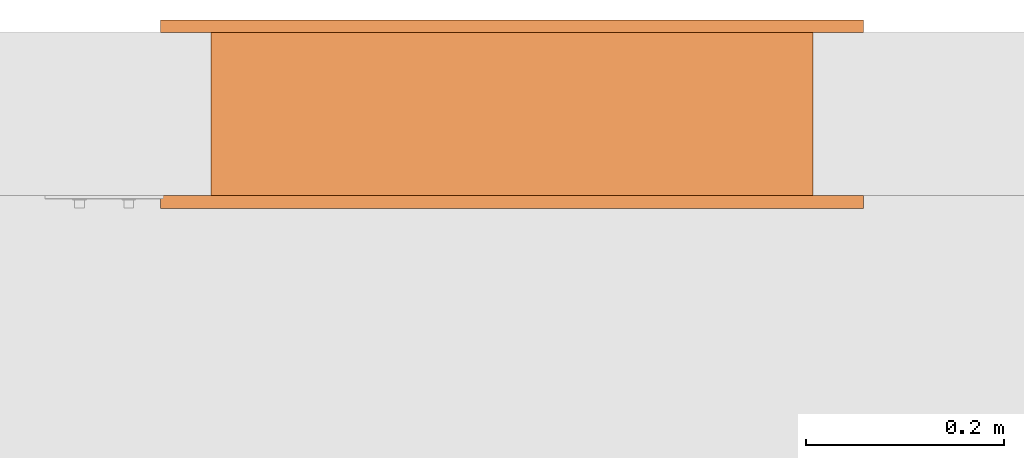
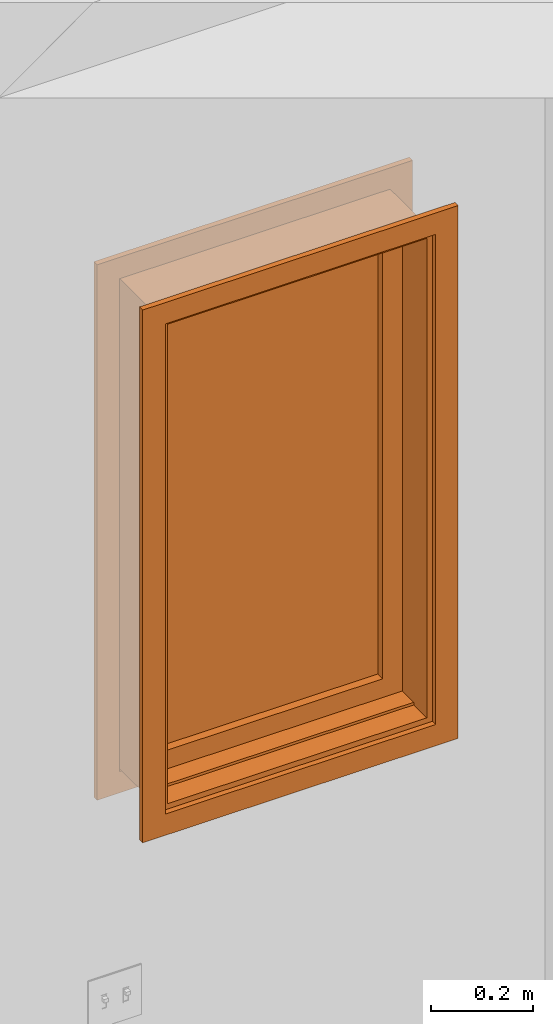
# One storey, part 63 of 103: 1 proxy.
"""IFC2X3 building model written with IfcOpenShell, lengths in inches."""

from ifc_helpers import new_model, entity, si_unit, converted_unit, derived_unit, money_unit, direction, frame, origin_with_axes, place, context, subcontext, project, spatial, faceted_brep, source, transform, mapped, type_object, element, save


model = new_model("IFC2X3")

# Units and contexts
model_context = context("Model", 3, precision=0.00039370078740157, world=origin_with_axes(), true_north=direction((0.0, 1.0)))
plan_context = context("Plan", 3, precision=0.00039370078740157, world=origin_with_axes(), true_north=direction((0.0, 1.0)))
body_context = subcontext(model_context, "Body", "Model", "MODEL_VIEW")
ifc_project = project(units=[converted_unit("LENGTHUNIT", "INCH", entity("IfcPositiveLengthMeasure", 0.0254), si_unit("LENGTHUNIT", "METRE"), dimensions=[1, 0, 0, 0, 0, 0, 0]), converted_unit("AREAUNIT", "SQUARE_FOOT", entity("IfcPositiveLengthMeasure", 0.09290304), si_unit("AREAUNIT", "SQUARE_METRE"), dimensions=[2, 0, 0, 0, 0, 0, 0]), si_unit("PLANEANGLEUNIT", "RADIAN"), si_unit("SOLIDANGLEUNIT", "STERADIAN"), money_unit("USD"), converted_unit("TIMEUNIT", "Year", entity("IfcTimeMeasure", 31557600.0), si_unit("TIMEUNIT", "SECOND"), dimensions=[0, 0, 1, 0, 0, 0, 0]), si_unit("MASSUNIT", "GRAM", prefix="KILO"), si_unit("THERMODYNAMICTEMPERATUREUNIT", "DEGREE_CELSIUS"), si_unit("LUMINOUSINTENSITYUNIT", "LUMEN"), si_unit("ENERGYUNIT", "JOULE", prefix="MEGA"), derived_unit("SPECIFICHEATCAPACITYUNIT", [(si_unit("ENERGYUNIT", "JOULE"), 1), (si_unit("MASSUNIT", "GRAM", prefix="KILO"), -1), (si_unit("THERMODYNAMICTEMPERATUREUNIT", "KELVIN"), -1)])], contexts=[model_context, plan_context])

# Site, building, storey
site_placement = place(None, origin_with_axes())
site = spatial("IfcSite", under=ifc_project, at=site_placement, Name="Site", CompositionType="ELEMENT")
building_placement = place(site_placement, origin_with_axes())
building = spatial("IfcBuilding", under=site, at=building_placement, Name="Building", CompositionType="ELEMENT")
storey_placement = place(building_placement, frame((0.0, 0.0, 127.9999999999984), z_axis=(0.0, 0.0, 1.0), x_axis=(1.0, 0.0, 0.0)))
storey = spatial("IfcBuildingStorey", under=building, at=storey_placement, Name="Second Floor", CompositionType="ELEMENT", Elevation=128.0)

# Proxy
building_element_proxy_type = type_object("IfcBuildingElementProxyType", Name="W Fixed", PredefinedType="NOTDEFINED")
shared_shape = source(origin_with_axes(), body_context, "Body", "Brep", [
    faceted_brep([(-11.99999999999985, -4.499999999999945, 0.0), (11.99999999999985, -4.499999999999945, 0.0), (11.99999999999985, -6.49999999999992, 0.0), (-11.99999999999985, -6.49999999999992, 0.0), (-11.99999999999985, -4.49999999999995, 45.99999999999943), (11.99999999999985, -4.49999999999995, 45.99999999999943), (-11.49999999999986, -4.499999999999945, 0.4999999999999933), (11.49999999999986, -4.499999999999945, 0.4999999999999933), (11.49999999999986, -4.49999999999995, 45.49999999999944), (-11.49999999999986, -4.49999999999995, 45.49999999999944), (11.99999999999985, -6.499999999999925, 45.99999999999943), (-11.99999999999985, -6.499999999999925, 45.99999999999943), (-11.49999999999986, -6.49999999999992, 0.4999999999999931), (-11.49999999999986, -6.499999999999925, 45.49999999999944), (11.49999999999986, -6.499999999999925, 45.49999999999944), (11.49999999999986, -6.49999999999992, 0.4999999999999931)], [[[0, 1, 2, 3]], [[0, 4, 5, 1], [6, 7, 8, 9]], [[1, 5, 10, 2]], [[3, 2, 10, 11], [12, 13, 14, 15]], [[4, 0, 3, 11]], [[5, 4, 11, 10]], [[7, 6, 12, 15]], [[8, 7, 15, 14]], [[9, 8, 14, 13]], [[6, 9, 13, 12]]]),
    faceted_brep([(-13.99999999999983, -6.999999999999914, -1.999999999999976), (-13.99999999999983, -6.499999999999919, -1.999999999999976), (-11.99999999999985, -6.49999999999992, 0.0), (-11.99999999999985, -6.999999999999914, 0.0), (-13.99999999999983, -6.999999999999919, 47.9999999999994), (-13.99999999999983, -6.499999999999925, 47.9999999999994), (-11.99999999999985, -6.499999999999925, 45.99999999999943), (-11.99999999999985, -6.999999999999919, 45.99999999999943)], [[[0, 1, 2, 3]], [[4, 5, 1, 0]], [[1, 5, 6, 2]], [[3, 2, 6, 7]], [[0, 3, 7, 4]], [[7, 6, 5, 4]]]),
    faceted_brep([(13.99999999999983, -6.999999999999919, 47.9999999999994), (13.99999999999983, -6.499999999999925, 47.9999999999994), (11.99999999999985, -6.499999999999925, 45.99999999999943), (11.99999999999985, -6.999999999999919, 45.99999999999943), (13.99999999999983, -6.999999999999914, -1.999999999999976), (13.99999999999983, -6.499999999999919, -1.999999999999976), (11.99999999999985, -6.49999999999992, 0.0), (11.99999999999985, -6.999999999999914, 0.0)], [[[0, 1, 2, 3]], [[4, 5, 1, 0]], [[1, 5, 6, 2]], [[3, 2, 6, 7]], [[0, 3, 7, 4]], [[7, 6, 5, 4]]]),
    faceted_brep([(13.99999999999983, -6.999999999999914, -1.999999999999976), (13.99999999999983, -6.499999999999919, -1.999999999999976), (11.99999999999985, -6.49999999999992, 0.0), (11.99999999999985, -6.999999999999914, 0.0), (-13.99999999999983, -6.999999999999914, -1.999999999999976), (-13.99999999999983, -6.499999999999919, -1.999999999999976), (-11.99999999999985, -6.49999999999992, 0.0), (-11.99999999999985, -6.999999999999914, 0.0)], [[[0, 1, 2, 3]], [[4, 5, 1, 0]], [[1, 5, 6, 2]], [[3, 2, 6, 7]], [[0, 3, 7, 4]], [[7, 6, 5, 4]]]),
    faceted_brep([(-13.99999999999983, -6.999999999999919, 47.9999999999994), (-13.99999999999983, -6.499999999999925, 47.9999999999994), (-11.99999999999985, -6.499999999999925, 45.99999999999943), (-11.99999999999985, -6.999999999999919, 45.99999999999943), (13.99999999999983, -6.999999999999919, 47.9999999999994), (13.99999999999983, -6.499999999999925, 47.9999999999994), (11.99999999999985, -6.499999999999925, 45.99999999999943), (11.99999999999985, -6.999999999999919, 45.99999999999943)], [[[0, 1, 2, 3]], [[4, 5, 1, 0]], [[1, 5, 6, 2]], [[3, 2, 6, 7]], [[0, 3, 7, 4]], [[7, 6, 5, 4]]]),
    faceted_brep([(-13.99999999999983, 0.4999999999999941, -2.249999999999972), (-11.99999999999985, 0.4999999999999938, -0.2499999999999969), (-11.99999999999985, 0.0, -0.249999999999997), (-13.99999999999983, 0.0, -2.249999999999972), (-13.99999999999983, 0.499999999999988, 47.9999999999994), (-11.99999999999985, 0.4999999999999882, 45.99999999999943), (-11.99999999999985, 0.0, 45.99999999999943), (-13.99999999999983, 0.0, 47.9999999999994)], [[[0, 1, 2, 3]], [[0, 4, 5, 1]], [[1, 5, 6, 2]], [[3, 2, 6, 7]], [[4, 0, 3, 7]], [[5, 4, 7, 6]]]),
    faceted_brep([(13.99999999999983, 0.499999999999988, 47.9999999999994), (11.99999999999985, 0.4999999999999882, 45.99999999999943), (11.99999999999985, 0.0, 45.99999999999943), (13.99999999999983, 0.0, 47.9999999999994), (13.99999999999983, 0.4999999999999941, -2.249999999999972), (11.99999999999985, 0.4999999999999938, -0.2499999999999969), (11.99999999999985, 0.0, -0.249999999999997), (13.99999999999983, 0.0, -2.249999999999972)], [[[0, 1, 2, 3]], [[0, 4, 5, 1]], [[1, 5, 6, 2]], [[3, 2, 6, 7]], [[4, 0, 3, 7]], [[5, 4, 7, 6]]]),
    faceted_brep([(13.99999999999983, 0.4999999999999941, -2.249999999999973), (11.99999999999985, 0.4999999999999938, -0.2499999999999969), (11.99999999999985, 0.0, -0.249999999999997), (13.99999999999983, 0.0, -2.249999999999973), (-13.99999999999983, 0.4999999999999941, -2.249999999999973), (-11.99999999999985, 0.4999999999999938, -0.2499999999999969), (-11.99999999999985, 0.0, -0.249999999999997), (-13.99999999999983, 0.0, -2.249999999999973)], [[[0, 1, 2, 3]], [[0, 4, 5, 1]], [[1, 5, 6, 2]], [[3, 2, 6, 7]], [[4, 0, 3, 7]], [[5, 4, 7, 6]]]),
    faceted_brep([(-13.99999999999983, 0.499999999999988, 47.9999999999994), (-11.99999999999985, 0.4999999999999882, 45.99999999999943), (-11.99999999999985, 0.0, 45.99999999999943), (-13.99999999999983, 0.0, 47.9999999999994), (13.99999999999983, 0.499999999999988, 47.9999999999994), (11.99999999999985, 0.4999999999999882, 45.99999999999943), (11.99999999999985, 0.0, 45.99999999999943), (13.99999999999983, 0.0, 47.9999999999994)], [[[0, 1, 2, 3]], [[0, 4, 5, 1]], [[1, 5, 6, 2]], [[3, 2, 6, 7]], [[4, 0, 3, 7]], [[5, 4, 7, 6]]]),
    faceted_brep([(-11.50039370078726, -4.499999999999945, 0.7539370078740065), (-11.50039370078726, -4.49999999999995, 45.49606299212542), (-11.99999999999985, -4.49999999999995, 45.49606299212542), (-11.99999999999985, -4.499999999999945, 0.7539370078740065), (-11.50039370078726, -2.749999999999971, 45.49606299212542), (-11.50039370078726, -2.749999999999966, 0.7539370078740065), (-11.74999999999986, -2.749999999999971, 45.49606299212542), (-11.74999999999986, 0.0, 45.49606299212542), (-11.99999999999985, 0.0, 45.49606299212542), (-11.99999999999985, 0.0, 0.7539370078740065), (-11.74999999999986, 0.0, 0.7539370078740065), (-11.74999999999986, -2.749999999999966, 0.7539370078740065)], [[[0, 1, 2, 3]], [[4, 1, 0, 5]], [[1, 4, 6, 7, 8, 2]], [[9, 3, 2, 8]], [[5, 0, 3, 9, 10, 11]], [[4, 5, 11, 6]], [[11, 10, 7, 6]], [[9, 8, 7, 10]]]),
    faceted_brep([(11.50039370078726, -2.749999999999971, 45.49606299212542), (11.50039370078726, -4.49999999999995, 45.49606299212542), (11.99999999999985, -4.49999999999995, 45.49606299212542), (11.99999999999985, 0.0, 45.49606299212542), (11.74999999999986, 0.0, 45.49606299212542), (11.74999999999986, -2.749999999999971, 45.49606299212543), (11.50039370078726, -4.499999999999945, 0.7539370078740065), (11.50039370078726, -2.749999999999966, 0.7539370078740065), (11.99999999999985, -4.499999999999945, 0.7539370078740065), (11.99999999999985, 0.0, 0.7539370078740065), (11.74999999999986, 0.0, 0.7539370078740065), (11.74999999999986, -2.749999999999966, 0.7539370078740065)], [[[0, 1, 2, 3, 4, 5]], [[6, 1, 0, 7]], [[1, 6, 8, 2]], [[3, 2, 8, 9]], [[3, 9, 10, 4]], [[11, 5, 4, 10]], [[7, 0, 5, 11]], [[6, 7, 11, 10, 9, 8]]]),
    faceted_brep([(11.50039370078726, -2.749999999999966, 0.7539370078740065), (11.50039370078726, -4.499999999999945, 0.7539370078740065), (11.99999999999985, -4.499999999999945, 0.7539370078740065), (11.99999999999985, 0.0, 0.7539370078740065), (11.74999999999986, 0.0, 0.7539370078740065), (11.74999999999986, -2.749999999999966, 0.7539370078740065), (11.50039370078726, -4.499999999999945, 0.7496062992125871), (11.50039370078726, -2.749999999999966, 0.7496062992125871), (-11.50039370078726, -4.499999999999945, 0.7496062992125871), (-11.50039370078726, -4.499999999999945, 0.7539370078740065), (-11.99999999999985, -4.499999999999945, 0.7539370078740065), (-11.99999999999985, -4.499999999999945, 0.0), (11.99999999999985, -4.499999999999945, 0.0), (11.99999999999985, 0.0, 0.0), (-11.99999999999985, 0.0, 0.0), (-11.99999999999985, 0.0, 0.7539370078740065), (-11.74999999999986, 0.0, 0.7539370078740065), (-11.74999999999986, 0.0, 0.4999999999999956), (11.74999999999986, 0.0, 0.4999999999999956), (11.74999999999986, -2.749999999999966, 0.4999999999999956), (-11.74999999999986, -2.749999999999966, 0.4999999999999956), (-11.74999999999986, -2.749999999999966, 0.7539370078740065), (-11.50039370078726, -2.749999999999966, 0.7539370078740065), (-11.50039370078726, -2.749999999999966, 0.7496062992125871)], [[[0, 1, 2, 3, 4, 5]], [[6, 1, 0, 7]], [[8, 9, 10, 11, 12, 2, 1, 6]], [[3, 2, 12, 13]], [[14, 15, 16, 17, 18, 4, 3, 13]], [[19, 5, 4, 18]], [[7, 0, 5, 19, 20, 21, 22, 23]], [[8, 6, 7, 23]], [[22, 9, 8, 23]], [[9, 22, 21, 16, 15, 10]], [[14, 11, 10, 15]], [[13, 12, 11, 14]], [[20, 17, 16, 21]], [[20, 19, 18, 17]]]),
    faceted_brep([(-11.50039370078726, -4.49999999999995, 45.49606299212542), (-11.50039370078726, -4.49999999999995, 45.50039370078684), (11.50039370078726, -4.49999999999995, 45.50039370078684), (11.50039370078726, -4.49999999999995, 45.49606299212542), (11.99999999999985, -4.49999999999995, 45.49606299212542), (11.99999999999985, -4.49999999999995, 45.99999999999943), (-11.99999999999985, -4.49999999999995, 45.99999999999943), (-11.99999999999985, -4.49999999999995, 45.49606299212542), (-11.50039370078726, -2.749999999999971, 45.49606299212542), (-11.50039370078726, -2.749999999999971, 45.50039370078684), (11.50039370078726, -2.749999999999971, 45.50039370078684), (11.50039370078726, -2.749999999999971, 45.49606299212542), (11.74999999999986, -2.749999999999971, 45.49606299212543), (11.74999999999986, 0.0, 45.49606299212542), (11.99999999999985, 0.0, 45.49606299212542), (11.99999999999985, 0.0, 45.99999999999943), (-11.99999999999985, 0.0, 45.99999999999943), (-11.99999999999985, 0.0, 45.49606299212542), (-11.74999999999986, 0.0, 45.49606299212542), (-11.74999999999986, -2.749999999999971, 45.49606299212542), (-11.74999999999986, -2.749999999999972, 45.74999999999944), (11.74999999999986, -2.749999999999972, 45.74999999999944), (11.74999999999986, 0.0, 45.74999999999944), (-11.74999999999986, 0.0, 45.74999999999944)], [[[0, 1, 2, 3, 4, 5, 6, 7]], [[1, 0, 8, 9]], [[2, 1, 9, 10]], [[3, 2, 10, 11]], [[3, 11, 12, 13, 14, 4]], [[15, 5, 4, 14]], [[16, 6, 5, 15]], [[17, 7, 6, 16]], [[8, 0, 7, 17, 18, 19]], [[9, 8, 19, 20, 21, 12, 11, 10]], [[12, 21, 22, 13]], [[13, 22, 23, 18, 17, 16, 15, 14]], [[20, 19, 18, 23]], [[21, 20, 23, 22]]]),
    faceted_brep([(-9.74999999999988, -2.749999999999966, 2.499999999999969), (-9.74999999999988, -1.874999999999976, 2.499999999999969), (-9.74999999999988, -1.874999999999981, 43.74999999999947), (-9.74999999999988, -2.749999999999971, 43.74999999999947), (-11.74999999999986, -2.749999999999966, 2.499999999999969), (-11.74999999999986, -1.874999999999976, 2.499999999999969), (-11.74999999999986, -1.874999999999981, 43.74999999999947), (-11.74999999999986, -2.749999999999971, 43.74999999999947)], [[[0, 1, 2, 3]], [[4, 5, 1, 0]], [[1, 5, 6, 2]], [[3, 2, 6, 7]], [[0, 3, 7, 4]], [[7, 6, 5, 4]]]),
    faceted_brep([(11.74999999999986, -2.749999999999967, 2.499999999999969), (11.74999999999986, -1.874999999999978, 2.499999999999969), (11.74999999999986, -1.874999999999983, 43.74999999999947), (11.74999999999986, -2.749999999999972, 43.74999999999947), (9.74999999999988, -2.749999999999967, 2.499999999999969), (9.74999999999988, -1.874999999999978, 2.499999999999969), (9.74999999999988, -1.874999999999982, 43.74999999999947), (9.74999999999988, -2.749999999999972, 43.74999999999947)], [[[0, 1, 2, 3]], [[4, 5, 1, 0]], [[1, 5, 6, 2]], [[3, 2, 6, 7]], [[0, 3, 7, 4]], [[7, 6, 5, 4]]]),
    faceted_brep([(11.74999999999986, -2.749999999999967, 0.4999999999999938), (11.74999999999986, -1.874999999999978, 0.4999999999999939), (11.74999999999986, -1.874999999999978, 2.499999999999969), (11.74999999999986, -2.749999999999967, 2.499999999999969), (-11.74999999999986, -2.749999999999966, 0.4999999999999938), (-11.74999999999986, -1.874999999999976, 0.4999999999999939), (-11.74999999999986, -1.874999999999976, 2.499999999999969), (-9.74999999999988, -1.874999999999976, 2.499999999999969), (-0.9999999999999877, -1.874999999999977, 2.499999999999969), (0.9999999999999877, -1.874999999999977, 2.499999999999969), (9.74999999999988, -1.874999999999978, 2.499999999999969), (9.74999999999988, -2.749999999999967, 2.499999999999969), (0.9999999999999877, -2.749999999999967, 2.499999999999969), (-0.9999999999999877, -2.749999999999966, 2.499999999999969), (-9.74999999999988, -2.749999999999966, 2.499999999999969), (-11.74999999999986, -2.749999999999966, 2.499999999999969)], [[[0, 1, 2, 3]], [[4, 5, 1, 0]], [[1, 5, 6, 7, 8, 9, 10, 2]], [[3, 2, 10, 11]], [[0, 3, 11, 12, 13, 14, 15, 4]], [[15, 6, 5, 4]], [[14, 7, 6, 15]], [[13, 8, 7, 14]], [[12, 9, 8, 13]], [[11, 10, 9, 12]]]),
    faceted_brep([(-11.74999999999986, -2.749999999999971, 45.74999999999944), (-11.74999999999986, -1.874999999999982, 45.74999999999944), (-11.74999999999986, -1.874999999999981, 43.74999999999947), (-11.74999999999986, -2.749999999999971, 43.74999999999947), (11.74999999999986, -2.749999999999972, 45.74999999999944), (11.74999999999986, -1.874999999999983, 45.74999999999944), (11.74999999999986, -1.874999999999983, 43.74999999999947), (9.74999999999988, -1.874999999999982, 43.74999999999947), (0.9999999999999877, -1.874999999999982, 43.74999999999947), (-0.9999999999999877, -1.874999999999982, 43.74999999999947), (-9.74999999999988, -1.874999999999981, 43.74999999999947), (-9.74999999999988, -2.749999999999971, 43.74999999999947), (-0.9999999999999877, -2.749999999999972, 43.74999999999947), (0.9999999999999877, -2.749999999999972, 43.74999999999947), (9.74999999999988, -2.749999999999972, 43.74999999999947), (11.74999999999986, -2.749999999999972, 43.74999999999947)], [[[0, 1, 2, 3]], [[4, 5, 1, 0]], [[1, 5, 6, 7, 8, 9, 10, 2]], [[3, 2, 10, 11]], [[0, 3, 11, 12, 13, 14, 15, 4]], [[15, 6, 5, 4]], [[14, 7, 6, 15]], [[13, 8, 7, 14]], [[12, 9, 8, 13]], [[11, 10, 9, 12]]]),
    faceted_brep([(-9.74999999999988, -1.874999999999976, 2.499999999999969), (-9.74999999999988, -0.9999999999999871, 2.499999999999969), (-9.74999999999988, -0.9999999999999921, 43.74999999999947), (-9.74999999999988, -1.874999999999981, 43.74999999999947), (-11.74999999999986, -1.874999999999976, 2.499999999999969), (-11.74999999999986, -0.9999999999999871, 2.499999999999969), (-11.74999999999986, -0.9999999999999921, 43.74999999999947), (-11.74999999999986, -1.874999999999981, 43.74999999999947)], [[[0, 1, 2, 3]], [[4, 5, 1, 0]], [[1, 5, 6, 2]], [[3, 2, 6, 7]], [[0, 3, 7, 4]], [[7, 6, 5, 4]]]),
    faceted_brep([(11.74999999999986, -1.874999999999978, 2.499999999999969), (11.74999999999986, -0.9999999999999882, 2.499999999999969), (11.74999999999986, -0.9999999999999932, 43.74999999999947), (11.74999999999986, -1.874999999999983, 43.74999999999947), (9.74999999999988, -1.874999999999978, 2.499999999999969), (9.74999999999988, -0.9999999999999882, 2.499999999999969), (9.74999999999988, -0.9999999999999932, 43.74999999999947), (9.74999999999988, -1.874999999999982, 43.74999999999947)], [[[0, 1, 2, 3]], [[4, 5, 1, 0]], [[1, 5, 6, 2]], [[3, 2, 6, 7]], [[0, 3, 7, 4]], [[7, 6, 5, 4]]]),
    faceted_brep([(11.74999999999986, -1.874999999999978, 0.4999999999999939), (11.74999999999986, -0.999999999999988, 0.499999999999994), (11.74999999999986, -0.9999999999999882, 2.499999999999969), (11.74999999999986, -1.874999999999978, 2.499999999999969), (-11.74999999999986, -1.874999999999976, 0.4999999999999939), (-11.74999999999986, -0.9999999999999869, 0.499999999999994), (-11.74999999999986, -0.9999999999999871, 2.499999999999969), (-9.74999999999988, -0.9999999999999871, 2.499999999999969), (-0.9999999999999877, -0.9999999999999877, 2.499999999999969), (0.9999999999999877, -0.9999999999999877, 2.499999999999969), (9.74999999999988, -0.9999999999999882, 2.499999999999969), (9.74999999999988, -1.874999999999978, 2.499999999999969), (0.9999999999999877, -1.874999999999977, 2.499999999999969), (-0.9999999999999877, -1.874999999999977, 2.499999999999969), (-9.74999999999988, -1.874999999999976, 2.499999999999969), (-11.74999999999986, -1.874999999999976, 2.499999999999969)], [[[0, 1, 2, 3]], [[4, 5, 1, 0]], [[1, 5, 6, 7, 8, 9, 10, 2]], [[3, 2, 10, 11]], [[0, 3, 11, 12, 13, 14, 15, 4]], [[15, 6, 5, 4]], [[14, 7, 6, 15]], [[13, 8, 7, 14]], [[12, 9, 8, 13]], [[11, 10, 9, 12]]]),
    faceted_brep([(-11.74999999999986, -1.874999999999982, 45.74999999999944), (-11.74999999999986, -0.9999999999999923, 45.74999999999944), (-11.74999999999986, -0.9999999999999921, 43.74999999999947), (-11.74999999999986, -1.874999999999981, 43.74999999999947), (11.74999999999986, -1.874999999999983, 45.74999999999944), (11.74999999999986, -0.9999999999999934, 45.74999999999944), (11.74999999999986, -0.9999999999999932, 43.74999999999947), (9.74999999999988, -0.9999999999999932, 43.74999999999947), (0.9999999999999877, -0.9999999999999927, 43.74999999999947), (-0.9999999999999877, -0.9999999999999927, 43.74999999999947), (-9.74999999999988, -0.9999999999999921, 43.74999999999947), (-9.74999999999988, -1.874999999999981, 43.74999999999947), (-0.9999999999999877, -1.874999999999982, 43.74999999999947), (0.9999999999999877, -1.874999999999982, 43.74999999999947), (9.74999999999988, -1.874999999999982, 43.74999999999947), (11.74999999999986, -1.874999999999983, 43.74999999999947)], [[[0, 1, 2, 3]], [[4, 5, 1, 0]], [[1, 5, 6, 7, 8, 9, 10, 2]], [[3, 2, 10, 11]], [[0, 3, 11, 12, 13, 14, 15, 4]], [[15, 6, 5, 4]], [[14, 7, 6, 15]], [[13, 8, 7, 14]], [[12, 9, 8, 13]], [[11, 10, 9, 12]]]),
    faceted_brep([(-9.74999999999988, -1.999999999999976, 2.499999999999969), (-9.74999999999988, -1.749999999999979, 2.499999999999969), (9.74999999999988, -1.749999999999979, 2.499999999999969), (9.74999999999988, -1.999999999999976, 2.499999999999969), (-9.74999999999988, -1.999999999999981, 43.74999999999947), (-9.74999999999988, -1.749999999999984, 43.74999999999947), (9.74999999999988, -1.749999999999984, 43.74999999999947), (9.74999999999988, -1.999999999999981, 43.74999999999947)], [[[0, 1, 2, 3]], [[4, 5, 1, 0]], [[1, 5, 6, 2]], [[3, 2, 6, 7]], [[0, 3, 7, 4]], [[7, 6, 5, 4]]]),
])
proxy_placement = place(storey_placement, frame((-109.7499999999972, 594.9999999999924, 47.9999999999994), z_axis=(0.0, 0.0, 1.0), x_axis=(1.0, 0.0, 0.0)))
element("IfcBuildingElementProxy", 1, at=proxy_placement, inside=storey, type_object=building_element_proxy_type, Name="WD - 002", context=body_context, shape_type="MappedRepresentation", body=[
    mapped(shared_shape, transform((11.99999999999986, 6.499999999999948, 0.0))),
])

save(model, "model.ifc")
